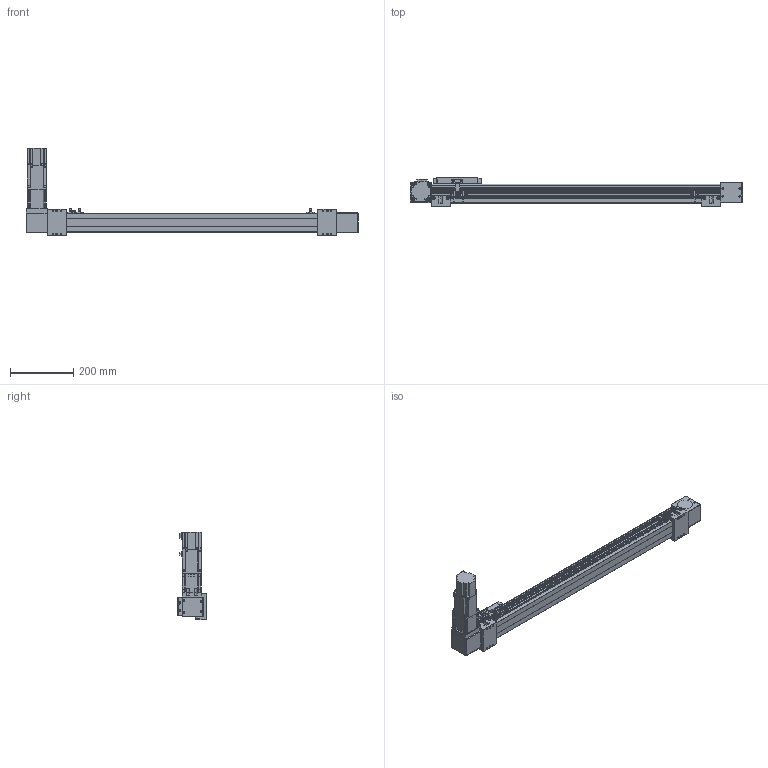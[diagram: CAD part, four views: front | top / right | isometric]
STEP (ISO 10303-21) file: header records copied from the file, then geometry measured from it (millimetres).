
FILE_DESCRIPTION(/* description */ ('STEP AP203'),/* implementation_level */ '2;1');
FILE_NAME(/* name */ 'SK60-P13-S750-BL-T40-C1-N(0)',/* time_stamp */ '2023-04-06T03:36:10+02:00',/* author */ ('License CC BY-ND 4.0'),/* organization */ ('CADENAS'),/* preprocessor_version */ 'ST-DEVELOPER v19.3',/* originating_system */ 'PARTsolutions',/* authorisation */ ' ');
FILE_SCHEMA (('CONFIG_CONTROL_DESIGN'));
Length unit declared in the file: millimetre
Products named in the file (11): SK60-P13-S750-BL-T40-C1-N(0); PSC140-sensor; SK60-S450_seat; SK60-S450-BL-C1_slider; SK60_body3; SK60_body6; SK60-BL_body2; T40-p1; SK60_body5; SK60_body4; SK60-S750-BL-C1_body
Assembly tree (17 placements, depth 2):
  SK60-P13-S750-BL-T40-C1-N(0)
    PSC140-sensor  x3
    SK60-S450_seat  x2
    SK60-S450-BL-C1_slider
    SK60_body3  x3
    SK60_body6  x2
    SK60-BL_body2  x2
    T40-p1
    SK60_body5
    SK60_body4
    SK60-S750-BL-C1_body
Bounding box: 1050 x 90 x 278.2 mm (x, y, z)
Volume: 4171717.7 mm3; surface area: 583781.4 mm2
Topology: 17 solids, 21 shells, 834 faces, 2109 edges, 1394 vertices
Faces by surface type: plane 544, cylinder 266, cone 22, torus 2
Full cylindrical faces by diameter (mm): 2.8 x3, 3.3 x4, 4.2 x8, 4.5 x26, 4.6 x3, 4.917 x16, 5 x2, 5.478 x4, 5.5 x19, 6.5 x4, 8 x4, 8.5 x4, 9.988 x4, 10 x8, 13.556 x1, 14 x1, 14.586 x1, 19.692 x1, 38.432 x2, 43 x1, 44 x3, 47 x2, 50 x2
Entity records: 19371 total; most frequent: DIRECTION 3292, CARTESIAN_POINT 3289, ORIENTED_EDGE 3050, EDGE_CURVE 1525, AXIS2_PLACEMENT_3D 1100, LINE 1092, VECTOR 1092, VERTEX_POINT 1077
